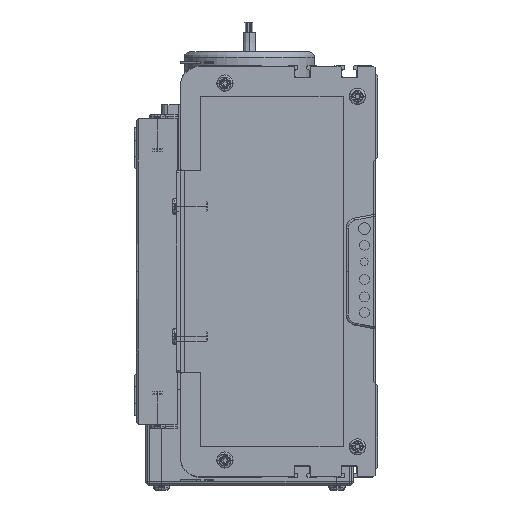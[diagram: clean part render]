
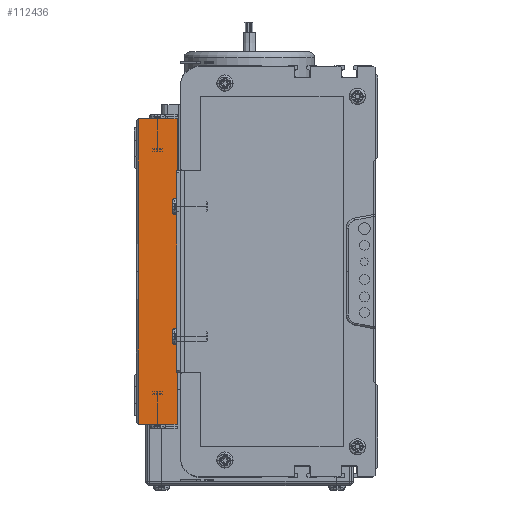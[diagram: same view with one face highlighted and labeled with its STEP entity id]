
A CAD part, left-side view. The second image highlights one B-rep face of the part: STEP entity #112436.
In plain terms, the highlighted planar face has unit normal (-1, 0, 0).
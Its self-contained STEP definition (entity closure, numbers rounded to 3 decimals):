
#23485 = DIRECTION ( 'NONE',  ( 0., 0., 1. ) ) ;
#23486 = VECTOR ( 'NONE', #23485, 1000. ) ;
#23487 = CARTESIAN_POINT ( 'NONE',  ( 0., 0., 0. ) ) ;
#23488 = LINE ( 'NONE', #23487, #23486 ) ;
#23508 = CARTESIAN_POINT ( 'NONE',  ( 0., 0., 75. ) ) ;
#23616 = CARTESIAN_POINT ( 'NONE',  ( 0., 0., -75. ) ) ;
#23990 = CARTESIAN_POINT ( 'NONE',  ( 0., 19., -75. ) ) ;
#25259 = DIRECTION ( 'NONE',  ( 0., 0., -1. ) ) ;
#25260 = DIRECTION ( 'NONE',  ( 1., 0., 0. ) ) ;
#25265 = CARTESIAN_POINT ( 'NONE',  ( 0., 20., 0. ) ) ;
#25270 = PLANE ( 'NONE',  #25291 ) ;
#25291 = AXIS2_PLACEMENT_3D ( 'NONE', #25265, #25260, #25259 ) ;
#25297 = FACE_OUTER_BOUND ( 'NONE', #112659, .T. ) ;
#25298 = DIRECTION ( 'NONE',  ( 0., 0., -1. ) ) ;
#25299 = VECTOR ( 'NONE', #25298, 1000. ) ;
#25300 = CARTESIAN_POINT ( 'NONE',  ( 0., 19., 0. ) ) ;
#25302 = LINE ( 'NONE', #25300, #25299 ) ;
#25303 = DIRECTION ( 'NONE',  ( 0., 0., -1. ) ) ;
#25304 = VECTOR ( 'NONE', #25303, 1000. ) ;
#25305 = CARTESIAN_POINT ( 'NONE',  ( 0., 19., 0. ) ) ;
#25306 = LINE ( 'NONE', #25305, #25304 ) ;
#25609 = CARTESIAN_POINT ( 'NONE',  ( 0., 19., 0. ) ) ;
#25622 = DIRECTION ( 'NONE',  ( 0., -1., 0. ) ) ;
#25623 = VECTOR ( 'NONE', #25622, 1000. ) ;
#25624 = CARTESIAN_POINT ( 'NONE',  ( 0., 20., -75. ) ) ;
#25626 = LINE ( 'NONE', #25624, #25623 ) ;
#82633 = CARTESIAN_POINT ( 'NONE',  ( 0., 19., 75. ) ) ;
#83294 = DIRECTION ( 'NONE',  ( 0., -1., 0. ) ) ;
#83304 = VECTOR ( 'NONE', #83294, 1000. ) ;
#83308 = CARTESIAN_POINT ( 'NONE',  ( 0., 20., 75. ) ) ;
#83309 = LINE ( 'NONE', #83308, #83304 ) ;
#111858 = EDGE_CURVE ( 'NONE', #111872, #112080, #83309, .T. ) ;
#111872 = VERTEX_POINT ( 'NONE', #82633 ) ;
#112080 = VERTEX_POINT ( 'NONE', #23508 ) ;
#112082 = EDGE_CURVE ( 'NONE', #112151, #112080, #23488, .T. ) ;
#112151 = VERTEX_POINT ( 'NONE', #23616 ) ;
#112325 = ORIENTED_EDGE ( 'NONE', *, *, #112475, .T. ) ;
#112340 = VERTEX_POINT ( 'NONE', #23990 ) ;
#112436 = ADVANCED_FACE ( 'NONE', ( #25297 ), #25270, .F. ) ;
#112439 = ORIENTED_EDGE ( 'NONE', *, *, #112082, .T. ) ;
#112475 = EDGE_CURVE ( 'NONE', #112640, #112340, #25306, .T. ) ;
#112478 = EDGE_CURVE ( 'NONE', #111872, #112640, #25302, .T. ) ;
#112640 = VERTEX_POINT ( 'NONE', #25609 ) ;
#112659 = EDGE_LOOP ( 'NONE', ( #112710, #112678, #112325, #112712, #112439 ) ) ;
#112676 = EDGE_CURVE ( 'NONE', #112340, #112151, #25626, .T. ) ;
#112678 = ORIENTED_EDGE ( 'NONE', *, *, #112478, .T. ) ;
#112710 = ORIENTED_EDGE ( 'NONE', *, *, #111858, .F. ) ;
#112712 = ORIENTED_EDGE ( 'NONE', *, *, #112676, .T. ) ;
